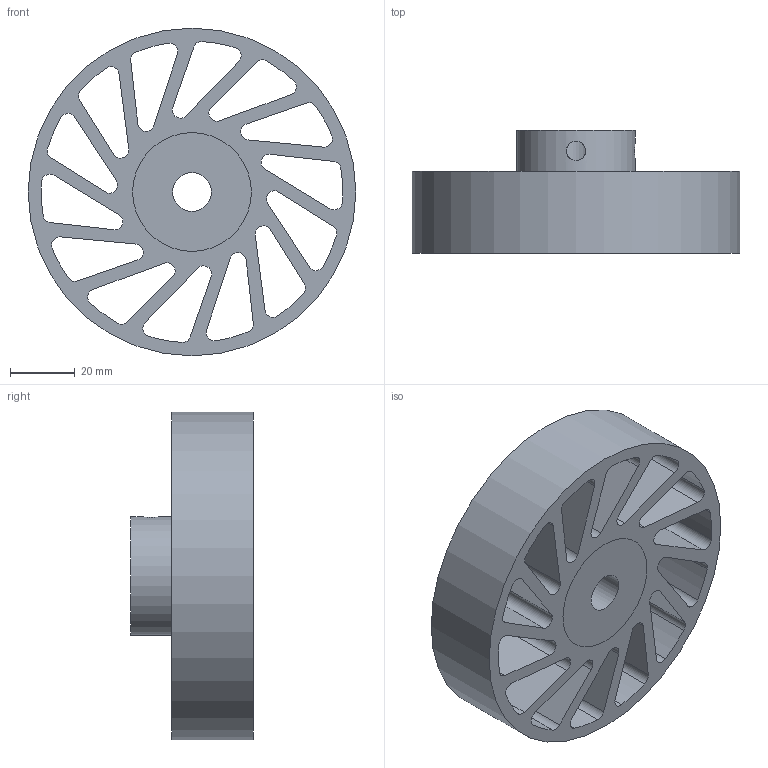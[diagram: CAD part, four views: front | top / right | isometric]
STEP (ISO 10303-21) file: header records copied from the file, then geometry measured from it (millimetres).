
FILE_DESCRIPTION(/* description */ (''),/* implementation_level */ '2;1');
FILE_NAME(/* name */ 'NCWM-350-XXX-YYY.stp',/* time_stamp */ '2023-02-02T16:23:44-06:00',/* author */ ('AG'),/* organization */ ('Meridian Laboratory'),/* preprocessor_version */ 'ST-DEVELOPER v18.1',/* originating_system */ 'Autodesk Inventor 2022',/* authorisation */ '');
FILE_SCHEMA (('AUTOMOTIVE_DESIGN { 1 0 10303 214 3 1 1 }'));
Length unit declared in the file: millimetre
Products named in the file (1): NCWM-340
Bounding box: 101.6 x 38.1 x 101.6 mm (x, y, z)
Volume: 123961.2 mm3; surface area: 50722.2 mm2
Topology: 2 solids, 2 shells, 94 faces, 276 edges, 186 vertices
Faces by surface type: cylinder 62, plane 32
Full cylindrical faces by diameter (mm): 6 x2, 12.025 x1, 36.83 x2, 101.6 x1
Entity records: 3528 total; most frequent: CARTESIAN_POINT 697, DIRECTION 576, ORIENTED_EDGE 552, EDGE_CURVE 276, AXIS2_PLACEMENT_3D 215, VERTEX_POINT 186, LINE 146, VECTOR 146
